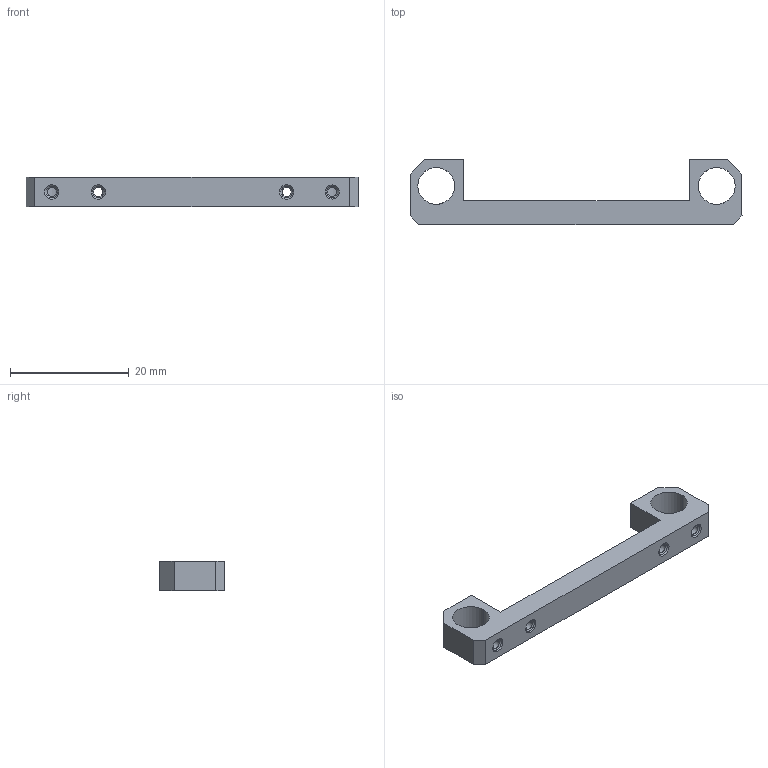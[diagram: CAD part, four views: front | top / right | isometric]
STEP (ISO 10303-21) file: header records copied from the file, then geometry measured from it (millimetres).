
FILE_DESCRIPTION(/* description */ ('VariCAD 2008 3.04 AP-203'),/* implementation_level */ '2;1');
FILE_NAME(/* name */ '0353-19-04',/* time_stamp */ '2009-04-22T20:06:56-06:00',/* author */ (''),/* organization */ (''),/* preprocessor_version */ 'ST-DEVELOPER v12',/* originating_system */ 'VariCAD 2008 3.04; kernel version (20080715)',/* authorisation */ '');
FILE_SCHEMA (('CONFIG_CONTROL_DESIGN'));
Length unit declared in the file: millimetre
Products named in the file (1): Part
Bounding box: 56 x 11.03 x 5 mm (x, y, z)
Volume: 1377.6 mm3; surface area: 1708 mm2
Topology: 5 solids, 5 shells, 62 faces, 144 edges, 88 vertices
Faces by surface type: cylinder 30, plane 16, cone 16
Entity records: 1990 total; most frequent: CARTESIAN_POINT 464, DIRECTION 320, ORIENTED_EDGE 288, EDGE_CURVE 144, AXIS2_PLACEMENT_3D 120, VERTEX_POINT 88, LINE 80, VECTOR 80
